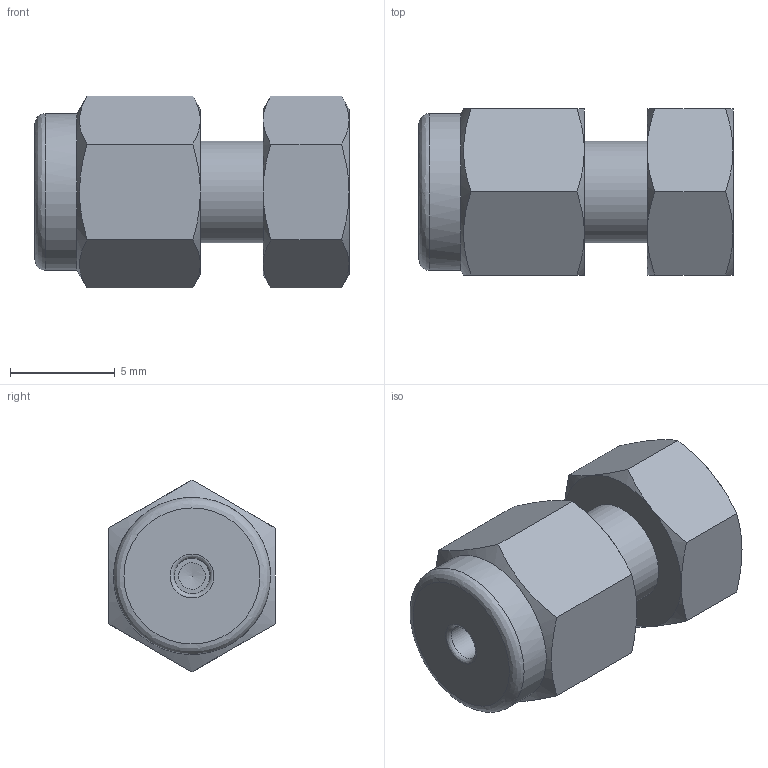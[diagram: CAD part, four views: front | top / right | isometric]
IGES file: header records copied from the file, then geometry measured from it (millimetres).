
Global section: file name: SC-1; native system: Autodesk Inventor 2016; preprocessor: unknown; author: DESIGNPC2; date: 20160312.131551; units: millimetre
Bounding box: 15 x 7.94 x 9.17 mm (x, y, z)
Volume: 662.4 mm3; surface area: 587.8 mm2
Topology: 1 solids, 1 shells, 43 faces, 104 edges, 66 vertices
Faces by surface type: bspline 43
